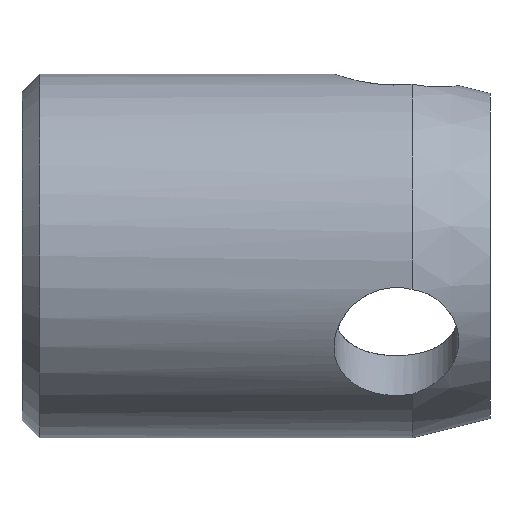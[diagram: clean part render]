
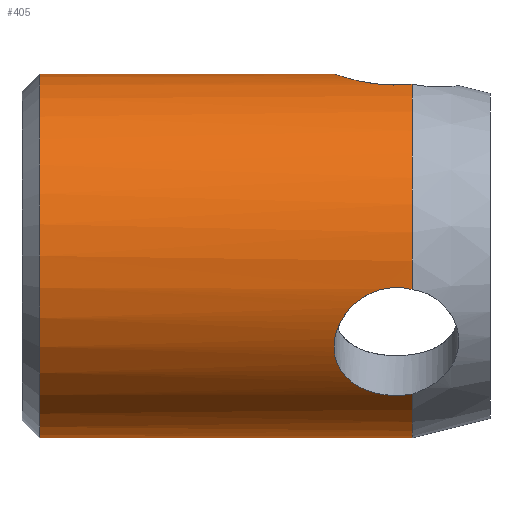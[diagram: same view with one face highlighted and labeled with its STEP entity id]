
A CAD part, front view. The second image highlights one B-rep face of the part: STEP entity #405.
In plain terms, the highlighted cylindrical face has radius 7 mm (diameter 14 mm), a partial arc.
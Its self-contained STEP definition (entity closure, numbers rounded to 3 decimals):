
#3 = CIRCLE ( 'NONE', #210, 7. ) ;
#16 = DIRECTION ( 'NONE',  ( 0., 0., -1. ) ) ;
#28 = DIRECTION ( 'NONE',  ( 1., 0., 0. ) ) ;
#36 = AXIS2_PLACEMENT_3D ( 'NONE', #1011, #536, #762 ) ;
#60 = AXIS2_PLACEMENT_3D ( 'NONE', #510, #108, #115 ) ;
#73 = DIRECTION ( 'NONE',  ( 1., 0., 0. ) ) ;
#75 = CARTESIAN_POINT ( 'NONE',  ( -5.345, -6.72, -1.966 ) ) ;
#79 = CARTESIAN_POINT ( 'NONE',  ( -3.179, -4.519, -5.346 ) ) ;
#85 = EDGE_CURVE ( 'NONE', #526, #920, #3, .T. ) ;
#100 = CARTESIAN_POINT ( 'NONE',  ( -3.179, -2.37, 6.587 ) ) ;
#108 = DIRECTION ( 'NONE',  ( 1., 0., 0. ) ) ;
#115 = DIRECTION ( 'NONE',  ( 0., 0., 1. ) ) ;
#122 = CARTESIAN_POINT ( 'NONE',  ( -5.215, -1.785, 6.77 ) ) ;
#149 = CARTESIAN_POINT ( 'NONE',  ( -4.269, -4.566, -5.306 ) ) ;
#155 = CARTESIAN_POINT ( 'NONE',  ( -6., -6.062, -3.5 ) ) ;
#156 = CARTESIAN_POINT ( 'NONE',  ( -5.979, -6.239, -3.179 ) ) ;
#162 = CARTESIAN_POINT ( 'NONE',  ( -17.325, 0., 7. ) ) ;
#163 = B_SPLINE_CURVE_WITH_KNOTS ( 'NONE', 3,
 ( #246, #79, #408, #720, #327, #149, #166, #557, #489, #705, #633, #1015, #318, #629, #313, #937, #712, #234 ),
 .UNSPECIFIED., .F., .F.,
 ( 4, 2, 2, 2, 2, 2, 2, 2, 4 ),
 ( 0., 0.001, 0.001, 0.002, 0.002, 0.003, 0.003, 0.004, 0.004 ),
 .UNSPECIFIED. ) ;
#166 = CARTESIAN_POINT ( 'NONE',  ( -4.444, -4.613, -5.266 ) ) ;
#170 = ORIENTED_EDGE ( 'NONE', *, *, #905, .T. ) ;
#171 = DIRECTION ( 'NONE',  ( 1., 0., 0. ) ) ;
#180 = CARTESIAN_POINT ( 'NONE',  ( -4.774, -2.101, 6.678 ) ) ;
#188 = LINE ( 'NONE', #445, #415 ) ;
#210 = AXIS2_PLACEMENT_3D ( 'NONE', #483, #73, #402 ) ;
#231 = CARTESIAN_POINT ( 'NONE',  ( -5.216, -6.755, -1.841 ) ) ;
#234 = CARTESIAN_POINT ( 'NONE',  ( -6., -6.062, -3.5 ) ) ;
#235 = CARTESIAN_POINT ( 'NONE',  ( -4.446, -6.867, -1.363 ) ) ;
#243 = EDGE_CURVE ( 'NONE', #601, #454, #559, .T. ) ;
#246 = CARTESIAN_POINT ( 'NONE',  ( -3., -4.556, -5.314 ) ) ;
#266 = CARTESIAN_POINT ( 'NONE',  ( -6., 0., 7. ) ) ;
#291 = ORIENTED_EDGE ( 'NONE', *, *, #85, .F. ) ;
#313 = CARTESIAN_POINT ( 'NONE',  ( -5.895, -5.668, -4.112 ) ) ;
#318 = CARTESIAN_POINT ( 'NONE',  ( -5.673, -5.359, -4.507 ) ) ;
#324 = CARTESIAN_POINT ( 'NONE',  ( -5.978, -0.37, 6.993 ) ) ;
#327 = CARTESIAN_POINT ( 'NONE',  ( -3.912, -4.506, -5.357 ) ) ;
#329 = CARTESIAN_POINT ( 'NONE',  ( -6., -6.062, -3.5 ) ) ;
#339 = CARTESIAN_POINT ( 'NONE',  ( -17.325, 0., -7. ) ) ;
#372 = ORIENTED_EDGE ( 'NONE', *, *, #729, .T. ) ;
#395 = CARTESIAN_POINT ( 'NONE',  ( -3.912, -6.892, -1.223 ) ) ;
#400 = CARTESIAN_POINT ( 'NONE',  ( -6., -6.155, -3.339 ) ) ;
#402 = DIRECTION ( 'NONE',  ( 0., 0., -1. ) ) ;
#404 = CARTESIAN_POINT ( 'NONE',  ( -3., -6.88, -1.289 ) ) ;
#405 = ADVANCED_FACE ( 'NONE', ( #539 ), #928, .T. ) ;
#408 = CARTESIAN_POINT ( 'NONE',  ( -3.36, -4.499, -5.363 ) ) ;
#409 = B_SPLINE_CURVE_WITH_KNOTS ( 'NONE', 3,
 ( #329, #400, #156, #702, #779, #863, #471, #75, #231, #867, #713, #235, #634, #395, #566, #717, #873, #404 ),
 .UNSPECIFIED., .F., .F.,
 ( 4, 2, 2, 2, 2, 2, 2, 2, 4 ),
 ( 0.004, 0.005, 0.005, 0.006, 0.007, 0.007, 0.008, 0.008, 0.009 ),
 .UNSPECIFIED. ) ;
#415 = VECTOR ( 'NONE', #529, 1000. ) ;
#430 = CARTESIAN_POINT ( 'NONE',  ( -4.444, -2.254, 6.628 ) ) ;
#433 = LINE ( 'NONE', #755, #789 ) ;
#445 = CARTESIAN_POINT ( 'NONE',  ( 21.562, 0., 7. ) ) ;
#447 = CARTESIAN_POINT ( 'NONE',  ( -5.673, -1.223, 6.894 ) ) ;
#454 = VERTEX_POINT ( 'NONE', #662 ) ;
#468 = CARTESIAN_POINT ( 'NONE',  ( -6., 0., 7. ) ) ;
#471 = CARTESIAN_POINT ( 'NONE',  ( -5.575, -6.633, -2.241 ) ) ;
#473 = EDGE_CURVE ( 'NONE', #526, #689, #710, .T. ) ;
#483 = CARTESIAN_POINT ( 'NONE',  ( -3., 0., 0. ) ) ;
#487 = VERTEX_POINT ( 'NONE', #339 ) ;
#489 = CARTESIAN_POINT ( 'NONE',  ( -4.929, -4.805, -5.092 ) ) ;
#491 = AXIS2_PLACEMENT_3D ( 'NONE', #966, #171, #16 ) ;
#503 = CARTESIAN_POINT ( 'NONE',  ( -6., -0.185, 7. ) ) ;
#510 = CARTESIAN_POINT ( 'NONE',  ( -17.325, 0., 0. ) ) ;
#515 = ORIENTED_EDGE ( 'NONE', *, *, #243, .F. ) ;
#526 = VERTEX_POINT ( 'NONE', #728 ) ;
#529 = DIRECTION ( 'NONE',  ( 1., 0., 0. ) ) ;
#536 = DIRECTION ( 'NONE',  ( 1., 0., 0. ) ) ;
#539 = FACE_OUTER_BOUND ( 'NONE', #942, .T. ) ;
#553 = CARTESIAN_POINT ( 'NONE',  ( -3., -6.88, -1.289 ) ) ;
#557 = CARTESIAN_POINT ( 'NONE',  ( -4.774, -4.733, -5.158 ) ) ;
#559 = CIRCLE ( 'NONE', #491, 7. ) ;
#566 = CARTESIAN_POINT ( 'NONE',  ( -3.73, -6.895, -1.206 ) ) ;
#577 = CARTESIAN_POINT ( 'NONE',  ( -5.895, -0.727, 6.964 ) ) ;
#588 = CARTESIAN_POINT ( 'NONE',  ( -4.929, -2.007, 6.707 ) ) ;
#593 = CARTESIAN_POINT ( 'NONE',  ( -4.269, -2.312, 6.607 ) ) ;
#599 = CARTESIAN_POINT ( 'NONE',  ( -3., -2.324, 6.603 ) ) ;
#601 = VERTEX_POINT ( 'NONE', #816 ) ;
#621 = EDGE_CURVE ( 'NONE', #987, #689, #188, .T. ) ;
#629 = CARTESIAN_POINT ( 'NONE',  ( -5.833, -5.565, -4.249 ) ) ;
#633 = CARTESIAN_POINT ( 'NONE',  ( -5.345, -5.063, -4.836 ) ) ;
#634 = CARTESIAN_POINT ( 'NONE',  ( -4.271, -6.878, -1.302 ) ) ;
#646 = EDGE_CURVE ( 'NONE', #987, #487, #665, .T. ) ;
#649 = EDGE_CURVE ( 'NONE', #487, #454, #433, .T. ) ;
#662 = CARTESIAN_POINT ( 'NONE',  ( -3., 0., -7. ) ) ;
#665 = CIRCLE ( 'NONE', #60, 7. ) ;
#672 = CARTESIAN_POINT ( 'NONE',  ( -3.726, -2.404, 6.574 ) ) ;
#689 = VERTEX_POINT ( 'NONE', #468 ) ;
#702 = CARTESIAN_POINT ( 'NONE',  ( -5.896, -6.393, -2.857 ) ) ;
#705 = CARTESIAN_POINT ( 'NONE',  ( -5.215, -4.97, -4.93 ) ) ;
#710 = B_SPLINE_CURVE_WITH_KNOTS ( 'NONE', 3,
 ( #599, #100, #969, #672, #973, #593, #430, #180, #588, #122, #907, #894, #447, #814, #577, #324, #503, #266 ),
 .UNSPECIFIED., .F., .F.,
 ( 4, 2, 2, 2, 2, 2, 2, 2, 4 ),
 ( 0., 0.001, 0.001, 0.002, 0.002, 0.003, 0.003, 0.004, 0.004 ),
 .UNSPECIFIED. ) ;
#712 = CARTESIAN_POINT ( 'NONE',  ( -6., -5.97, -3.66 ) ) ;
#713 = CARTESIAN_POINT ( 'NONE',  ( -4.774, -6.834, -1.519 ) ) ;
#717 = CARTESIAN_POINT ( 'NONE',  ( -3.364, -6.894, -1.214 ) ) ;
#720 = CARTESIAN_POINT ( 'NONE',  ( -3.726, -4.492, -5.369 ) ) ;
#728 = CARTESIAN_POINT ( 'NONE',  ( -3., -2.324, 6.603 ) ) ;
#729 = EDGE_CURVE ( 'NONE', #601, #754, #163, .T. ) ;
#754 = VERTEX_POINT ( 'NONE', #155 ) ;
#755 = CARTESIAN_POINT ( 'NONE',  ( 21.562, 0., -7. ) ) ;
#758 = ORIENTED_EDGE ( 'NONE', *, *, #646, .T. ) ;
#762 = DIRECTION ( 'NONE',  ( 0., 0., -1. ) ) ;
#763 = ORIENTED_EDGE ( 'NONE', *, *, #649, .T. ) ;
#779 = CARTESIAN_POINT ( 'NONE',  ( -5.833, -6.462, -2.695 ) ) ;
#789 = VECTOR ( 'NONE', #28, 1000. ) ;
#814 = CARTESIAN_POINT ( 'NONE',  ( -5.833, -0.898, 6.944 ) ) ;
#816 = CARTESIAN_POINT ( 'NONE',  ( -3., -4.556, -5.314 ) ) ;
#826 = ORIENTED_EDGE ( 'NONE', *, *, #621, .F. ) ;
#863 = CARTESIAN_POINT ( 'NONE',  ( -5.673, -6.582, -2.389 ) ) ;
#867 = CARTESIAN_POINT ( 'NONE',  ( -4.931, -6.812, -1.617 ) ) ;
#873 = CARTESIAN_POINT ( 'NONE',  ( -3.179, -6.889, -1.241 ) ) ;
#894 = CARTESIAN_POINT ( 'NONE',  ( -5.573, -1.378, 6.864 ) ) ;
#905 = EDGE_CURVE ( 'NONE', #754, #920, #409, .T. ) ;
#907 = CARTESIAN_POINT ( 'NONE',  ( -5.345, -1.657, 6.803 ) ) ;
#920 = VERTEX_POINT ( 'NONE', #553 ) ;
#928 = CYLINDRICAL_SURFACE ( 'NONE', #36, 7. ) ;
#937 = CARTESIAN_POINT ( 'NONE',  ( -5.978, -5.871, -3.817 ) ) ;
#942 = EDGE_LOOP ( 'NONE', ( #826, #758, #763, #515, #372, #170, #291, #981 ) ) ;
#966 = CARTESIAN_POINT ( 'NONE',  ( -3., 0., 0. ) ) ;
#969 = CARTESIAN_POINT ( 'NONE',  ( -3.36, -2.395, 6.578 ) ) ;
#973 = CARTESIAN_POINT ( 'NONE',  ( -3.912, -2.387, 6.581 ) ) ;
#981 = ORIENTED_EDGE ( 'NONE', *, *, #473, .T. ) ;
#987 = VERTEX_POINT ( 'NONE', #162 ) ;
#1011 = CARTESIAN_POINT ( 'NONE',  ( 21.562, 0., 0. ) ) ;
#1015 = CARTESIAN_POINT ( 'NONE',  ( -5.573, -5.256, -4.626 ) ) ;
